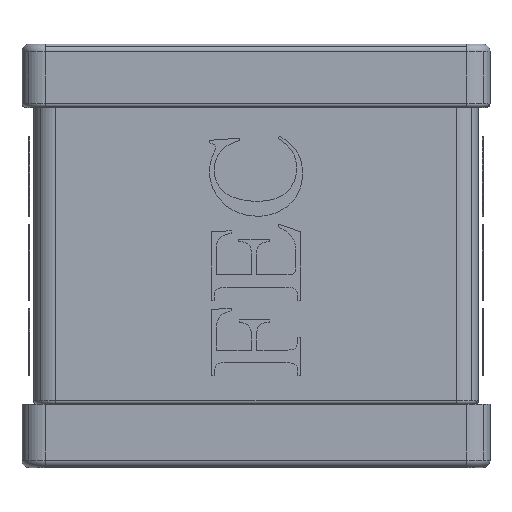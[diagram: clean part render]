
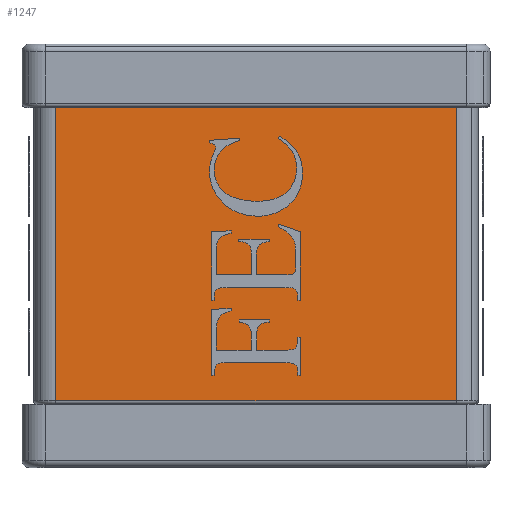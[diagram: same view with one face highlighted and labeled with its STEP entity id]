
A CAD part, top view. The second image highlights one B-rep face of the part: STEP entity #1247.
In plain terms, the highlighted planar face has unit normal (0, 0, 1).
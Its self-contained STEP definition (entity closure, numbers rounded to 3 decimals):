
#1247=ADVANCED_FACE('',(#3395),#3396,.T.);
#3395=FACE_OUTER_BOUND('',#5614,.T.);
#3396=PLANE('',#5615);
#5614=EDGE_LOOP('',(#14875,#14876,#14877,#14878));
#5615=AXIS2_PLACEMENT_3D('',#14879,#14880,#14881);
#14875=ORIENTED_EDGE('',*,*,#18477,.F.);
#14876=ORIENTED_EDGE('',*,*,#18436,.F.);
#14877=ORIENTED_EDGE('',*,*,#18482,.F.);
#14878=ORIENTED_EDGE('',*,*,#18480,.T.);
#14879=CARTESIAN_POINT('',(-2.693,-0.85,1.33));
#14880=DIRECTION('',(0.0,0.0,1.0));
#14881=DIRECTION('',(1.0,0.0,0.0));
#18436=EDGE_CURVE('',#23607,#23609,#23610,.T.);
#18477=EDGE_CURVE('',#23609,#23671,#23675,.T.);
#18480=EDGE_CURVE('',#23679,#23671,#23680,.T.);
#18482=EDGE_CURVE('',#23679,#23607,#23682,.T.);
#23607=VERTEX_POINT('',#31872);
#23609=VERTEX_POINT('',#31874);
#23610=LINE('',#31875,#31876);
#23671=VERTEX_POINT('',#31950);
#23675=LINE('',#31954,#31955);
#23679=VERTEX_POINT('',#31961);
#23680=LINE('',#31962,#31963);
#23682=LINE('',#31965,#31966);
#31872=CARTESIAN_POINT('',(2.693,-0.85,1.33));
#31874=CARTESIAN_POINT('',(2.693,-4.8,1.33));
#31875=CARTESIAN_POINT('',(2.693,-0.85,1.33));
#31876=VECTOR('',#35280,1.0);
#31950=CARTESIAN_POINT('',(-2.693,-4.8,1.33));
#31954=CARTESIAN_POINT('',(-1.347,-4.8,1.33));
#31955=VECTOR('',#35375,1.0);
#31961=CARTESIAN_POINT('',(-2.693,-0.85,1.33));
#31962=CARTESIAN_POINT('',(-2.693,-0.85,1.33));
#31963=VECTOR('',#35378,1.0);
#31965=CARTESIAN_POINT('',(-2.693,-0.85,1.33));
#31966=VECTOR('',#35382,1.0);
#35280=DIRECTION('',(0.0,-1.0,0.0));
#35375=DIRECTION('',(-1.0,0.,0.0));
#35378=DIRECTION('',(0.0,-1.0,0.0));
#35382=DIRECTION('',(1.0,0.0,0.0));
